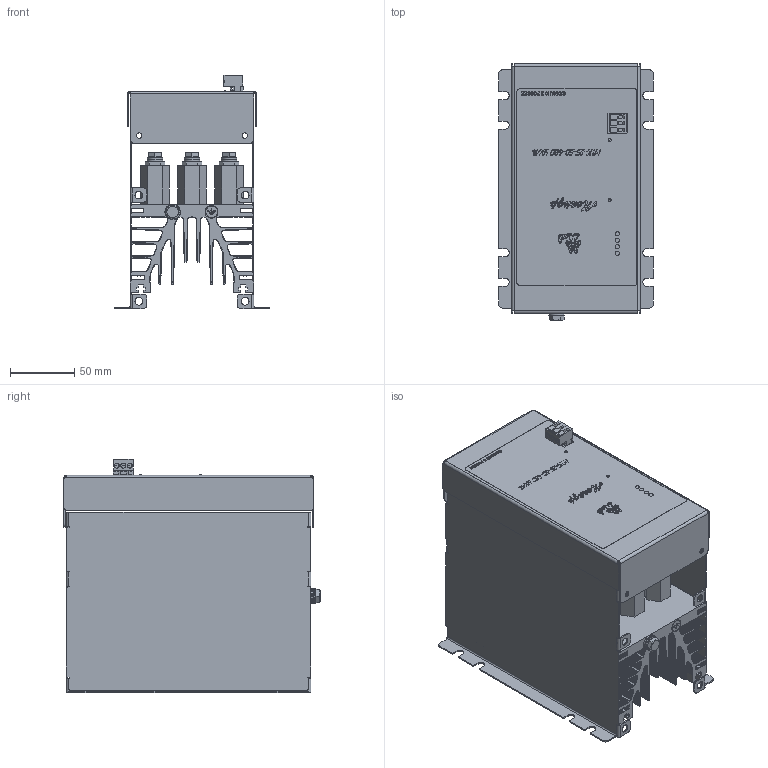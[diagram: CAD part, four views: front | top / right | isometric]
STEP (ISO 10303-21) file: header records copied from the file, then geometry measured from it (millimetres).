
FILE_DESCRIPTION(('STEP AP203'), '1');
FILE_NAME('ÌÒÊ 25-50-480 ÓÕË4', '2025-05-20T07:38:55', (''), ('ÎÎÎ "Ìåàíäð"'), 'C3D Converter', 'C3D Toolkit', '');
FILE_SCHEMA(('CONFIG_CONTROL_DESIGN'));
Length unit declared in the file: millimetre
Products named in the file (4): МТК 25-50-480 УХЛ4; -МТК 25; Болт М6х14; МТК 25-50-480
Assembly tree (9 placements, depth 2):
  МТК 25-50-480 УХЛ4
    -МТК 25
    Болт М6х14  x7
    МТК 25-50-480
Bounding box: 120 x 199.21 x 181.05 mm (x, y, z)
Volume: 630813.1 mm3; surface area: 483299.4 mm2
Topology: 9 solids, 15 shells, 6937 faces, 20310 edges, 13505 vertices
Faces by surface type: plane 3782, cylinder 2112, extrusion 937, bspline 38, torus 35, cone 29, sphere 4
Full cylindrical faces by diameter (mm): 3.3 x4, 3.9 x3, 4.2 x4, 5 x9, 6 x13, 6.1 x12, 6.4 x7, 8.9 x7, 9.1 x1, 10.01 x1, 12 x7
Entity records: 301116 total; most frequent: CARTESIAN_POINT 70368, ORIENTED_EDGE 38946, DIRECTION 34005, EDGE_CURVE 19473, VECTOR 14317, LINE 13380, VERTEX_POINT 12981, AXIS2_PLACEMENT_3D 9844
